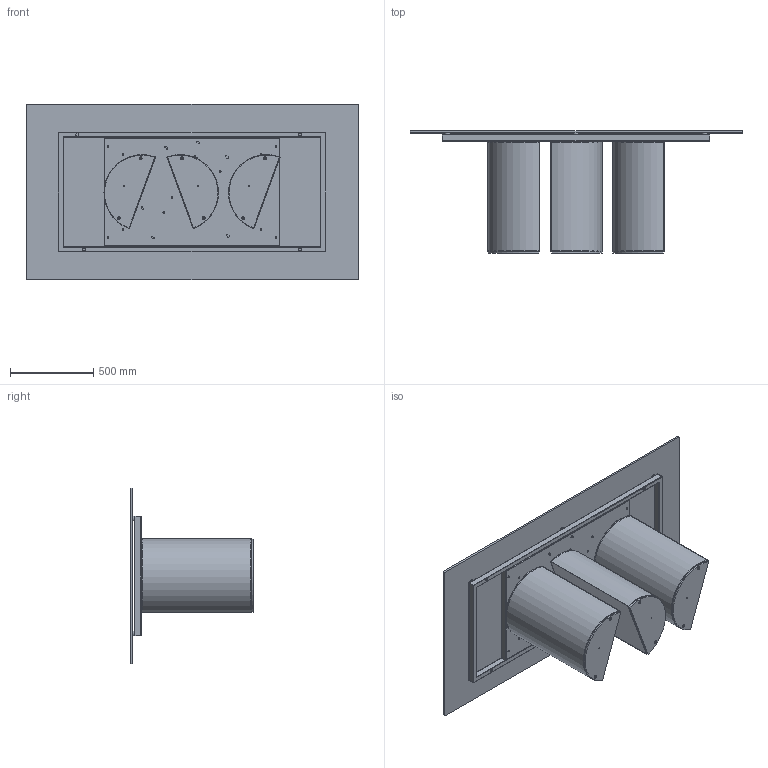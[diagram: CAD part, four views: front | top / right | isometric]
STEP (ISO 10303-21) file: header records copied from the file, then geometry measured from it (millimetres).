
FILE_DESCRIPTION (( 'STEP AP203' ), '1' );
FILE_NAME ('PL21G.STEP', '2024-08-07T13:50:53', ( '' ), ( '' ), 'SwSTEP 2.0', 'SolidWorks 2022', '' );
FILE_SCHEMA (( 'CONFIG_CONTROL_DESIGN' ));
Length unit declared in the file: millimetre
Products named in the file (14): PLA000000ZOC-01-PLAI ZOCCOLO DELLA BASE; PL21G; Assieme Basamento PLAI_Basamento per tavoli; 434070-00-PIEDINO TPV GOMMA NERO D. 30x8max18_filo estetico; C2XCRXX-00-Piani Rettangolari Cristallo_21 2000x1060; rondella M8_8X24; TTAV0601-00-TELAIO X TAVOLI PLAI ONDA NOA 240cm_TTAV06; M8xXXmm_M8x20mm; PLA000000BAS-00-PLAI BASE GREZZA; COLLO TELAIO UNIVERSALE TTAV0601 CON FERRAMENTA_FERRAMENTA MTG TOP CRISTALLO VERNICIATO-CERAMICA; TTAV0601_02-00-VASSOIO TAVOLI PLAI ONDA NOA 240; TTAV0601_01-00-STRUTTURA X TAVOLI PLAI ONDA NOA 240; M8xXXmm_hex_M8X20mm; M8xXXmm_hex_M8X60mm
Assembly tree (30 placements, depth 4):
  PL21G
    COLLO TELAIO UNIVERSALE TTAV0601 CON FERRAMENTA_FERRAMENTA MTG TOP CRISTALLO VERNICIATO-CERAMICA
      TTAV0601-00-TELAIO X TAVOLI PLAI ONDA NOA 240cm_TTAV06
        TTAV0601_02-00-VASSOIO TAVOLI PLAI ONDA NOA 240
        TTAV0601_01-00-STRUTTURA X TAVOLI PLAI ONDA NOA 240
      434070-00-PIEDINO TPV GOMMA NERO D. 30x8max18_filo estetico  x6
    Assieme Basamento PLAI_Basamento per tavoli  x3
      PLA000000BAS-00-PLAI BASE GREZZA
      PLA000000ZOC-01-PLAI ZOCCOLO DELLA BASE
      M8xXXmm_hex_M8X60mm
      M8xXXmm_hex_M8X20mm
    rondella M8_8X24  x6
    M8xXXmm_M8x20mm  x6
    C2XCRXX-00-Piani Rettangolari Cristallo_21 2000x1060
Bounding box: 2000 x 736 x 1060 mm (x, y, z)
Volume: 38213603.6 mm3; surface area: 12960824.3 mm2
Topology: 48 solids, 48 shells, 1116 faces, 2498 edges, 1460 vertices
Faces by surface type: plane 471, cylinder 329, cone 200, torus 108, sphere 8
Entity records: 18689 total; most frequent: DIRECTION 3093, CARTESIAN_POINT 2880, ORIENTED_EDGE 2720, EDGE_CURVE 1360, AXIS2_PLACEMENT_3D 1147, VERTEX_POINT 816, VECTOR 799, LINE 799
